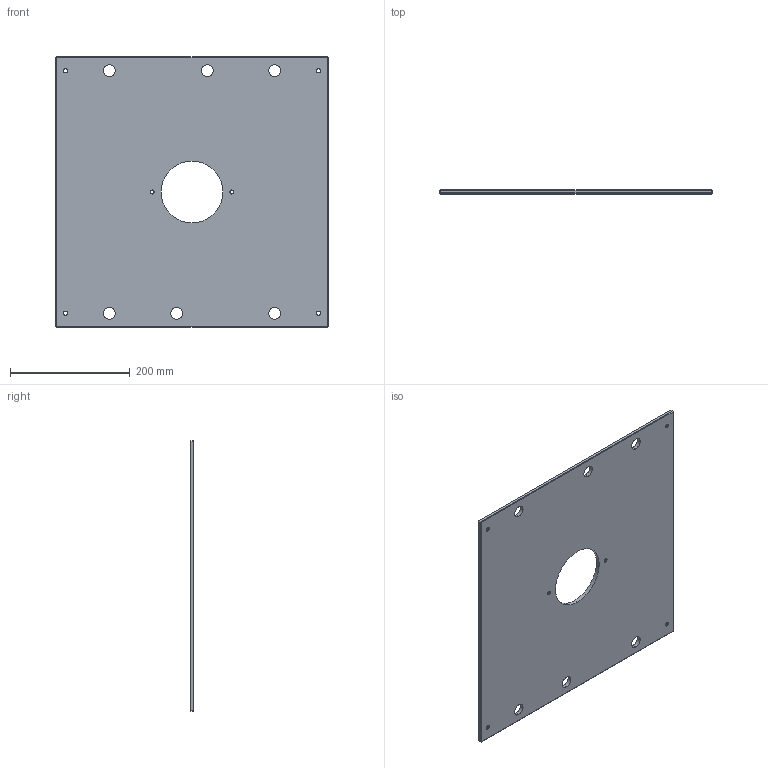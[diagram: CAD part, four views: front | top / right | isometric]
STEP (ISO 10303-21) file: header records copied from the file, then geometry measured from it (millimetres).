
FILE_DESCRIPTION (( 'STEP AP214' ), '1' );
FILE_NAME ('ME-0619-CH-1818-B.STEP', '2020-02-11T17:48:16', ( '' ), ( '' ), 'SwSTEP 2.0', 'SolidWorks 2018', '' );
FILE_SCHEMA (( 'AUTOMOTIVE_DESIGN' ));
Length unit declared in the file: inch
Products named in the file (1): ME-0619-CH-1818-B
Bounding box: 454.02 x 6.35 x 450.85 mm (x, y, z)
Volume: 1229292.7 mm3; surface area: 402404.6 mm2
Topology: 1 solids, 1 shells, 64 faces, 150 edges, 88 vertices
Faces by surface type: cylinder 26, plane 26, cone 12
Entity records: 1902 total; most frequent: DIRECTION 344, CARTESIAN_POINT 303, ORIENTED_EDGE 300, EDGE_CURVE 150, AXIS2_PLACEMENT_3D 129, EDGE_LOOP 90, VERTEX_POINT 88, LINE 86
